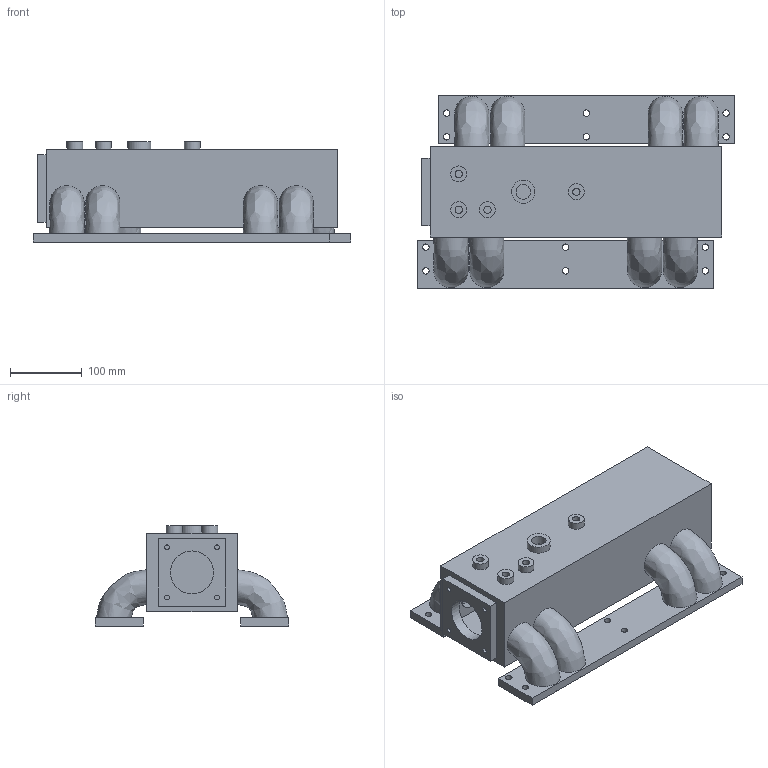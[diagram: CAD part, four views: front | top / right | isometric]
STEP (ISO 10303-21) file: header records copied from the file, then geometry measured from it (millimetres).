
FILE_DESCRIPTION(('Open CASCADE Model'),'2;1');
FILE_NAME('Open CASCADE Shape Model','2026-09-28T11:54:17',('Author'),( 'Open CASCADE'),'Open CASCADE STEP processor 8.0','build123d', 'Unknown');
FILE_SCHEMA(('AUTOMOTIVE_DESIGN { 1 0 10303 214 1 1 1 1 }'));
Length unit declared in the file: millimetre
Products named in the file (1): SOLID
Bounding box: 443 x 270 x 139.91 mm (x, y, z)
Volume: 1436947.2 mm3; surface area: 689207 mm2
Topology: 1 solids, 1 shells, 85 faces, 197 edges, 134 vertices
Faces by surface type: plane 42, cylinder 27, bspline 16
Full cylindrical faces by diameter (mm): 6.8 x4, 9 x12, 10.2 x4, 20.4 x1, 22.2 x4, 32.4 x1, 60 x1
Entity records: 22039 total; most frequent: CARTESIAN_POINT 18109, DIRECTION 628, ORIENTED_EDGE 394, PCURVE 394, DEFINITIONAL_REPRESENTATION 394, LINE 331, VECTOR 331, EDGE_CURVE 197
